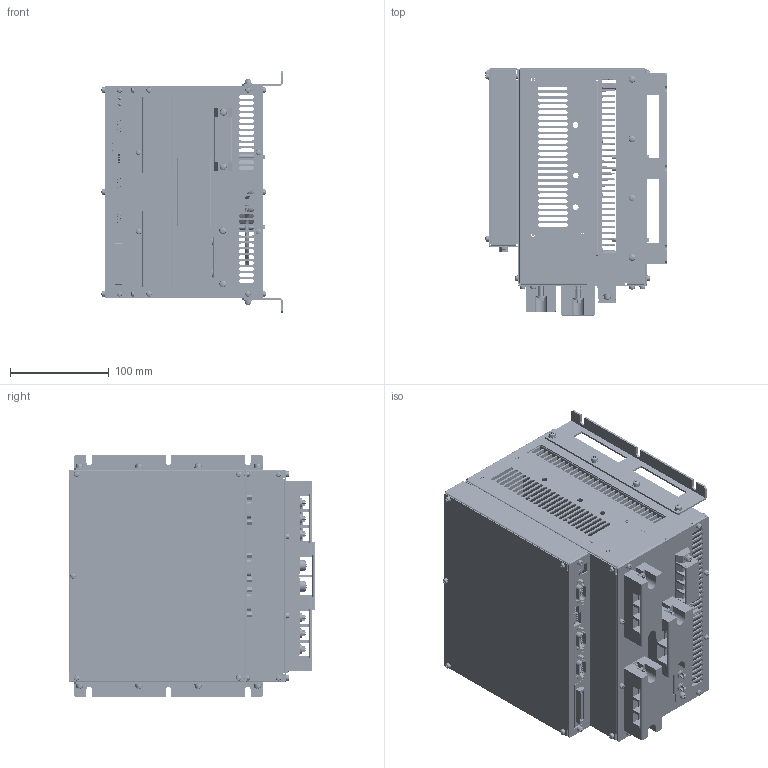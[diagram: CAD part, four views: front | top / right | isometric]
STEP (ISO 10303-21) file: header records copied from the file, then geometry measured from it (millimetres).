
FILE_DESCRIPTION(('HOOPS Exchange Step'),'2;1');
FILE_NAME('/tmp/f9e4a1607f0f2a32fa8f36075958048820210922-1-fci2l3.X_T.step','2021-09-22T00:36:48+00:00',('root'),('Unknown organisation'),'HOOPS Exchange 2021.0','HOOPS Exchange','Unknown authorisation');
FILE_SCHEMA( ('AUTOMOTIVE_DESIGN { 1 0 10303 214 1 1 1 1 }') );
Length unit declared in the file: millimetre
Products named in the file (1): f9e4a1607f0f2a32fa8f36075958048820210922-1-fci2l3
Bounding box: 183.17 x 249.5 x 245 mm (x, y, z)
Volume: 1385640.2 mm3; surface area: 1412451.7 mm2
Topology: 669 solids, 1388 shells, 8468 faces, 26223 edges, 19829 vertices
Faces by surface type: plane 5736, cylinder 2533, bspline 152, sphere 37, torus 10
Full cylindrical faces by diameter (mm): 0.5 x54, 0.8 x53, 1 x27, 1.2 x27, 1.7 x2, 2.2 x52, 2.5 x2, 2.8 x12, 3 x143, 3.1 x8, 3.5 x32, 3.8 x4, 4 x126, 4.3 x26, 4.5 x32, 5 x40, 5.2 x2, 5.5 x94, 6 x47, 7 x65, 8 x46, 8.3 x8, 9 x43, 10 x27, 10.5 x4, 11.5 x8, 33 x2, 76 x2
Entity records: 338210 total; most frequent: CARTESIAN_POINT 101747, ORIENTED_EDGE 47331, DIRECTION 45059, EDGE_CURVE 26108, VERTEX_POINT 19733, VECTOR 15103, LINE 15103, AXIS2_PLACEMENT_3D 14978
